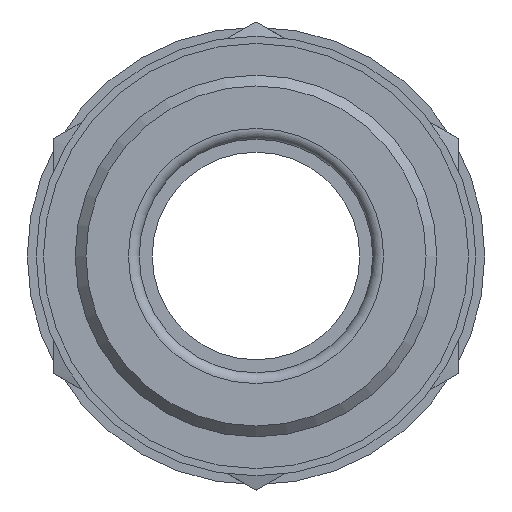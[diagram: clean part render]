
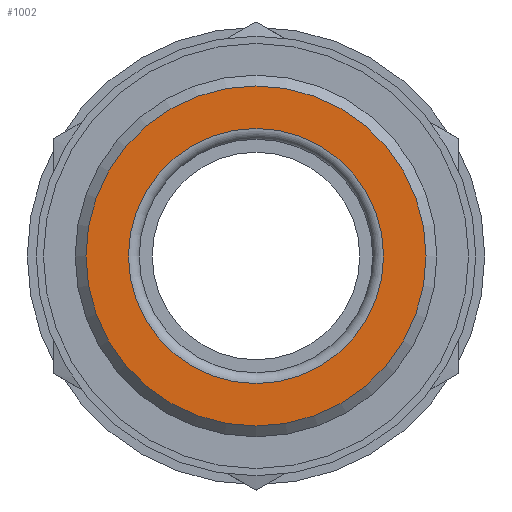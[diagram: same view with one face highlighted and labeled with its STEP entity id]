
A CAD part, left-side view. The second image highlights one B-rep face of the part: STEP entity #1002.
In plain terms, the highlighted planar face has unit normal (-1, 0, 0).
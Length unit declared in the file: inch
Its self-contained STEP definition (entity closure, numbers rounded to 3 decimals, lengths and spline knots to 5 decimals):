
#21=PLANE('',#1118);
#164=CIRCLE('',#1119,0.354);
#165=CIRCLE('',#1120,0.472);
#283=ORIENTED_EDGE('',*,*,#546,.T.);
#284=ORIENTED_EDGE('',*,*,#547,.F.);
#546=EDGE_CURVE('',#669,#669,#164,.T.);
#547=EDGE_CURVE('',#670,#670,#165,.T.);
#669=VERTEX_POINT('',#1737);
#670=VERTEX_POINT('',#1739);
#767=EDGE_LOOP('',(#283));
#768=EDGE_LOOP('',(#284));
#875=FACE_BOUND('',#767,.T.);
#876=FACE_BOUND('',#768,.T.);
#1002=ADVANCED_FACE('',(#875,#876),#21,.T.);
#1118=AXIS2_PLACEMENT_3D('',#1735,#1333,#1334);
#1119=AXIS2_PLACEMENT_3D('',#1736,#1335,#1336);
#1120=AXIS2_PLACEMENT_3D('',#1738,#1337,#1338);
#1333=DIRECTION('',(-1.,0.,0.));
#1334=DIRECTION('',(0.,0.,1.));
#1335=DIRECTION('',(1.,0.,0.));
#1336=DIRECTION('',(0.,0.,-1.));
#1337=DIRECTION('',(1.,0.,0.));
#1338=DIRECTION('',(0.,0.,-1.));
#1735=CARTESIAN_POINT('',(-0.03,0.472,0.));
#1736=CARTESIAN_POINT('',(-0.03,0.,0.));
#1737=CARTESIAN_POINT('',(-0.03,0.,-0.354));
#1738=CARTESIAN_POINT('',(-0.03,0.,0.));
#1739=CARTESIAN_POINT('',(-0.03,0.,-0.472));
